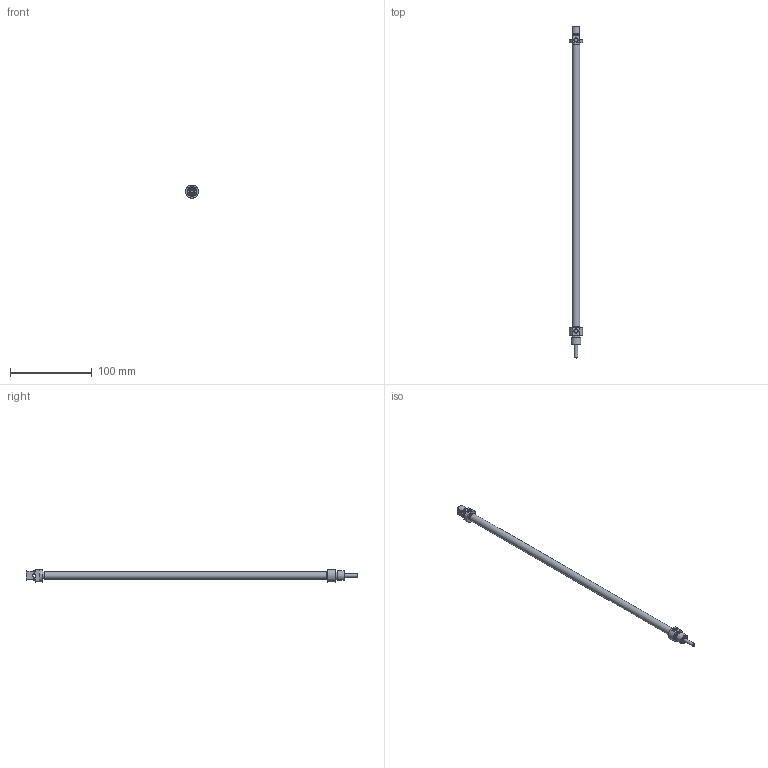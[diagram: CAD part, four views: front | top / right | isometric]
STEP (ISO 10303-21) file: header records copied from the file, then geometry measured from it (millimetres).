
FILE_DESCRIPTION((''),'2;1');
FILE_NAME('T:\Archivio Inventor\- 00 NUOVI STP PER SITO CON STELO CHE SI MUOVE\SERIE O\ODM\ODM008.---.GS.M\ODM008.320.GS.M.stp','2014-02-25T14:18:42',('carlo.corazza'),(''),'Autodesk Inventor 2012','Autodesk Inventor 2012','');
FILE_SCHEMA(('AUTOMOTIVE_DESIGN { 1 0 10303 214 1 1 1 1 }'));
Length unit declared in the file: millimetre
Products named in the file (5): ODM008..GS.M; TP; STELO-320; CORPO-320; TA
Assembly tree (4 placements, depth 2):
  ODM008..GS.M
    TP
    STELO-320
    CORPO-320
    TA
Bounding box: 16 x 406 x 15 mm (x, y, z)
Volume: 15917.7 mm3; surface area: 26665.7 mm2
Topology: 4 solids, 4 shells, 90 faces, 180 edges, 114 vertices
Faces by surface type: plane 32, cylinder 29, cone 22, torus 7
Full cylindrical faces by diameter (mm): 3 x1, 4 x2, 4.134 x2, 4.426 x1, 4.7 x1, 6.5 x1, 6.6 x1, 6.7 x1, 8 x1, 8.1 x1, 8.2 x1, 9.2 x2, 9.27 x1, 10 x1, 12 x2
Entity records: 2353 total; most frequent: CARTESIAN_POINT 419, DIRECTION 402, ORIENTED_EDGE 260, AXIS2_PLACEMENT_3D 183, EDGE_LOOP 154, EDGE_CURVE 130, VERTEX_POINT 108, FACE_OUTER_BOUND 90
